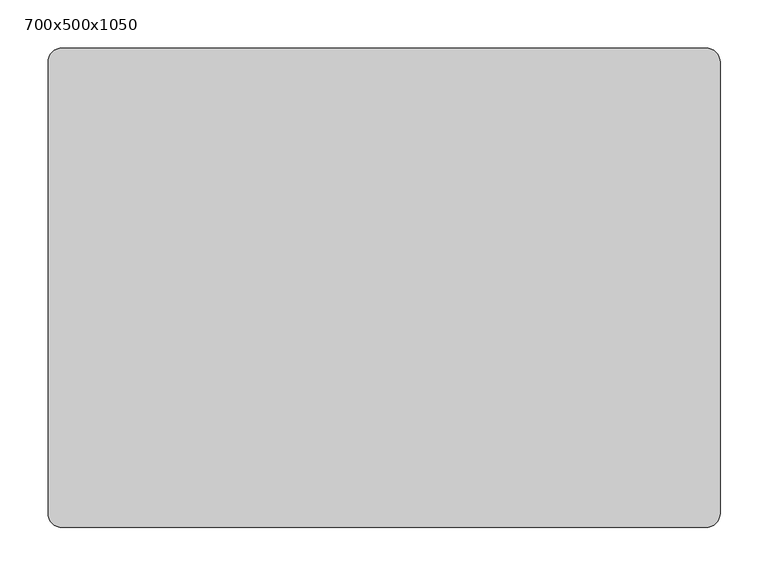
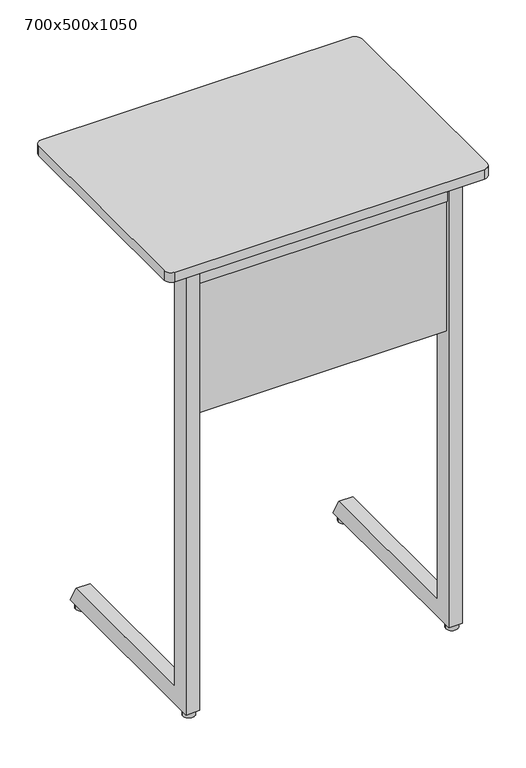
"""IFC4 building model written with IfcOpenShell, lengths in millimetres: furniture geometry, Trivia Light : 700x500x1050."""

import ifcopenshell
import ifcopenshell.guid

model = None  # the IFC model being written
_history = None  # IfcOwnerHistory: only IFC2X3 demands one
_inside = {}  # id of a spatial element -> (the spatial element, [elements in it])
_under = {}  # id of a project, library or spatial element -> (it, [spatial elements below it])
_declared = {}  # id of a project -> (the project, [libraries it declares])
_typed = {}  # id of a type object -> (the type object, [elements of that type])
_made_of = {}  # id of a material, layer set ... -> (it, [elements and type objects made of it])


def new_model(schema):
    """Start an empty IFC model of exactly this schema.

    Asked for "IFC4X3", IfcOpenShell would pick the latest addendum, in which some entities
    have other attributes; the version numbers below select the first issue.
    IFC2X3 requires an IfcOwnerHistory on every rooted entity: one is made here for all.
    """
    global model, _history
    if schema == "IFC4X3":
        model = ifcopenshell.file(schema_version=(4, 3, 0, 0))
    else:
        model = ifcopenshell.file(schema=schema)
    _inside.clear()
    _under.clear()
    _declared.clear()
    _typed.clear()
    _made_of.clear()
    _history = None
    if model.schema == "IFC2X3":
        org = make("IfcOrganization", Name="unknown")
        user = make(
            "IfcPersonAndOrganization",
            ThePerson=make("IfcPerson", FamilyName="unknown"),
            TheOrganization=org,
        )
        app = make(
            "IfcApplication",
            ApplicationDeveloper=org,
            Version="unknown",
            ApplicationFullName="unknown",
            ApplicationIdentifier="unknown",
        )
        _history = make(
            "IfcOwnerHistory",
            OwningUser=user,
            OwningApplication=app,
            ChangeAction="ADDED",
            CreationDate=0,
        )
    return model


def make(cls, **values):
    """One entity of the class cls with the attributes given. An attribute that is None is left unset."""
    return model.create_entity(
        cls, **{name: value for name, value in values.items() if value is not None}
    )


def rooted(cls, **values):
    """An entity with a GlobalId (a new one), such as an element, a storey or a relation."""
    return make(cls, GlobalId=ifcopenshell.guid.new(), OwnerHistory=_history, **values)


def si_unit(unit_type, name, prefix=None):
    """IfcSIUnit, for example si_unit("LENGTHUNIT", "METRE", prefix="MILLI")."""
    return make("IfcSIUnit", UnitType=unit_type, Prefix=prefix, Name=name)


def assignment(units):
    """IfcUnitAssignment: the units of a project."""
    return None if units is None else make("IfcUnitAssignment", Units=units)


def point(xyz):
    """IfcCartesianPoint."""
    return None if xyz is None else make("IfcCartesianPoint", Coordinates=xyz)


def direction(xyz):
    """IfcDirection."""
    return None if xyz is None else make("IfcDirection", DirectionRatios=xyz)


def frame(location, z_axis=None, x_axis=None):
    """IfcAxis2Placement3D, a coordinate frame: its origin and axes. An axis left out is left unset."""
    return make(
        "IfcAxis2Placement3D",
        Location=point(location),
        Axis=direction(z_axis),
        RefDirection=direction(x_axis),
    )


def frame_2d(location, x_axis=None):
    """IfcAxis2Placement2D, a coordinate frame in the plane: its origin and x axis."""
    return make(
        "IfcAxis2Placement2D", Location=point(location), RefDirection=direction(x_axis)
    )


def origin():
    """The frame at (0, 0, 0) with its axes left unset."""
    return frame((0.0, 0.0, 0.0))


def origin_with_axes():
    """The frame at (0, 0, 0) with the z axis (0, 0, 1) and the x axis (1, 0, 0) written out."""
    return frame((0.0, 0.0, 0.0), z_axis=(0.0, 0.0, 1.0), x_axis=(1.0, 0.0, 0.0))


def place(relative_to, where):
    """IfcLocalPlacement: puts the frame where relative to a parent placement (None: the world)."""
    return make(
        "IfcLocalPlacement", PlacementRelTo=relative_to, RelativePlacement=where
    )


def context(
    kind, dimensions, precision=None, world=None, true_north=None, identifier=None
):
    """IfcGeometricRepresentationContext, for example the 3D "Model" context."""
    return make(
        "IfcGeometricRepresentationContext",
        ContextIdentifier=identifier,
        ContextType=kind,
        CoordinateSpaceDimension=dimensions,
        Precision=precision,
        WorldCoordinateSystem=world,
        TrueNorth=true_north,
    )


def project(units=None, contexts=None):
    """IfcProject with its units and contexts."""
    return rooted(
        "IfcProject",
        Name="project",
        RepresentationContexts=contexts,
        UnitsInContext=assignment(units),
    )


def spatial(cls, under=None, at=None, **own):
    """A site, building, storey or space (cls), placed at a placement, below another one or the project."""
    s = rooted(cls, ObjectPlacement=at, **own)
    if under is not None:
        _under.setdefault(under.id(), (under, []))[1].append(s)
    return s


def polyline(points):
    """IfcPolyline through the points."""
    return make("IfcPolyline", Points=[point(p) for p in points])


def circle_curve(where, radius):
    """IfcCircle in the frame where."""
    return make("IfcCircle", Position=where, Radius=radius)


def trimmed(basis, trim1, trim2, sense, master):
    """IfcTrimmedCurve: the piece of a basis curve between two trims."""
    return make(
        "IfcTrimmedCurve",
        BasisCurve=basis,
        Trim1=trim1,
        Trim2=trim2,
        SenseAgreement=sense,
        MasterRepresentation=master,
    )


def segment(curve, same_sense, transition):
    """IfcCompositeCurveSegment."""
    return make(
        "IfcCompositeCurveSegment",
        Transition=transition,
        SameSense=same_sense,
        ParentCurve=curve,
    )


def composite_curve(segments, self_intersect=None):
    """IfcCompositeCurve: segments joined end to end."""
    return make("IfcCompositeCurve", Segments=segments, SelfIntersect=self_intersect)


def outline(outer, holes=None, kind="AREA"):
    """IfcArbitraryClosedProfileDef: a profile drawn as a closed curve; with holes, ...WithVoids."""
    if holes is None:
        return make("IfcArbitraryClosedProfileDef", ProfileType=kind, OuterCurve=outer)
    return make(
        "IfcArbitraryProfileDefWithVoids",
        ProfileType=kind,
        OuterCurve=outer,
        InnerCurves=holes,
    )


def extrude(swept, where, along, depth):
    """IfcExtrudedAreaSolid: the profile swept, set in the frame where, extruded along a direction by depth."""
    return make(
        "IfcExtrudedAreaSolid",
        SweptArea=swept,
        Position=where,
        ExtrudedDirection=direction(along),
        Depth=depth,
    )


def shape(context_of_items, identifier, shape_type, items):
    """IfcShapeRepresentation: the items that make up one representation, for example the "Body"."""
    return make(
        "IfcShapeRepresentation",
        ContextOfItems=context_of_items,
        RepresentationIdentifier=identifier,
        RepresentationType=shape_type,
        Items=items,
    )


def source(mapping_origin, context_of_items, identifier, shape_type, items):
    """IfcRepresentationMap: a shape defined once, which mapped items show again and again."""
    return make(
        "IfcRepresentationMap",
        MappingOrigin=mapping_origin,
        MappedRepresentation=shape(context_of_items, identifier, shape_type, items),
    )


def transform(
    local_origin,
    x_axis=None,
    y_axis=None,
    z_axis=None,
    scale=None,
    scale2=None,
    scale3=None,
    uniform=True,
):
    """IfcCartesianTransformationOperator3D, or its non-uniform kind. x_axis, y_axis, z_axis: its Axis1, 2, 3."""
    if uniform:
        return make(
            "IfcCartesianTransformationOperator3D",
            Axis1=direction(x_axis),
            Axis2=direction(y_axis),
            LocalOrigin=point(local_origin),
            Scale=scale,
            Axis3=direction(z_axis),
        )
    return make(
        "IfcCartesianTransformationOperator3DnonUniform",
        Axis1=direction(x_axis),
        Axis2=direction(y_axis),
        LocalOrigin=point(local_origin),
        Scale=scale,
        Axis3=direction(z_axis),
        Scale2=scale2,
        Scale3=scale3,
    )


def mapped(mapping_source, mapping_target):
    """IfcMappedItem: shows the shape of a source again, moved by a transform."""
    return make(
        "IfcMappedItem", MappingSource=mapping_source, MappingTarget=mapping_target
    )


def made_of(thing, what):
    """Note that an element or type object is made of a material, layer set ...; save() writes the relation."""
    if what is not None:
        _made_of.setdefault(what.id(), (what, []))[1].append(thing)
    return thing


def element(
    cls,
    number,
    at=None,
    inside=None,
    cuts=None,
    type_object=None,
    material=None,
    context=None,
    identifier="Body",
    shape_type=None,
    held_by="IfcProductDefinitionShape",
    body=None,
    shapes=None,
    **own,
):
    """One element of the class cls, such as IfcWall. Its Tag is "e" and its number.

    at: its placement. inside: the storey or other place that contains it. cuts: it is an
    opening in that element (IfcRelVoidsElement). A single representation is given by context,
    identifier, shape_type and body (its items); several are given by shapes. held_by: the class
    of the entity that holds the representations. save() writes the other relations.
    """
    e = rooted(cls, Tag="e%d" % number, ObjectPlacement=at, **own)
    if body is not None:
        shapes = [shape(context, identifier, shape_type, body)]
    if shapes is not None:
        e.Representation = make(held_by, Representations=shapes)
    if inside is not None:
        _inside.setdefault(inside.id(), (inside, []))[1].append(e)
    if cuts is not None:
        rooted(
            "IfcRelVoidsElement", RelatingBuildingElement=cuts, RelatedOpeningElement=e
        )
    if type_object is not None:
        _typed.setdefault(type_object.id(), (type_object, []))[1].append(e)
    return made_of(e, material)


def aggregate(whole, parts):
    """IfcRelAggregates: a whole, such as a stair, and the parts it consists of."""
    return rooted("IfcRelAggregates", RelatingObject=whole, RelatedObjects=parts)


def save(model, path):
    """Write the relations noted so far, then the file.

    IfcRelAggregates (storeys below a building ...), IfcRelContainedInSpatialStructure (elements
    in a storey), IfcRelDefinesByType, IfcRelAssociatesMaterial and IfcRelDeclares: one each for
    every whole, place, type object, material and project.
    """
    for whole, parts in _under.values():
        aggregate(whole, parts)
    for where, things in _inside.values():
        rooted(
            "IfcRelContainedInSpatialStructure",
            RelatedElements=things,
            RelatingStructure=where,
        )
    for kind, things in _typed.values():
        rooted("IfcRelDefinesByType", RelatedObjects=things, RelatingType=kind)
    for what, things in _made_of.values():
        rooted("IfcRelAssociatesMaterial", RelatedObjects=things, RelatingMaterial=what)
    for by, libraries in _declared.values():
        rooted("IfcRelDeclares", RelatingContext=by, RelatedDefinitions=libraries)
    model.write(path)


def furniture_700x500x1050_0ab8f7d2(model_context):
    return source(origin(), model_context, "Body", "SweptSolid", [
        extrude(outline(polyline([(434.5100173, 1028.0), (419.9996059, 996.4981092), (54.0, 996.4977978), (54.0, 1028.0), (434.5100173, 1028.0)])), frame((-214.7535601, 0.0, 0.0), z_axis=(1.0, 0.0, 0.0), x_axis=(0.0, 1.0, 0.0)), (0.0, 0.0, 1.0), 30.0),
        extrude(outline(polyline([(1023.7997437, -217.7502136), (1000.730957, -217.7502136), (1000.730957, -249.8065042), (1005.0394353, -261.6439509), (1002.2203574, -262.6700113), (997.730957, -250.3354852), (997.730957, -214.7502136), (1023.7997437, -214.7502136), (1023.7997437, -217.7502136)])), frame((0.0, 215.0, 0.0), z_axis=(0.0, 1.0, 0.0), x_axis=(0.0, 0.0, 1.0)), (0.0, 0.0, 1.0), 30.0),
        extrude(outline(polyline([(1023.7997437, 217.7535601), (1023.7997437, 214.7535601), (997.730957, 214.7535601), (997.730957, 250.3388316), (1002.2203574, 262.6733577), (1005.0394353, 261.6472973), (1000.730957, 249.8098507), (1000.730957, 217.7535601), (1023.7997437, 217.7535601)])), frame((0.0, 215.0, 0.0), z_axis=(0.0, 1.0, 0.0), x_axis=(0.0, 0.0, 1.0)), (0.0, 0.0, 1.0), 30.0),
        extrude(outline(composite_curve([segment(trimmed(circle_curve(frame_2d((-285.0, 35.0)), 13.0), [point((-298.0, 35.0))], [point((-272.0, 35.0))], False, "CARTESIAN"), True, "CONTINUOUS"), segment(trimmed(circle_curve(frame_2d((-285.0, 35.0)), 13.0), [point((-272.0, 35.0))], [point((-298.0, 35.0))], False, "CARTESIAN"), True, "CONTINUOUS")], self_intersect=False)), origin_with_axes(), (0.0, 0.0, 1.0), 13.0905762),
        extrude(outline(composite_curve([segment(trimmed(circle_curve(frame_2d((285.0, 35.0)), 13.0), [point((272.0, 35.0))], [point((298.0, 35.0))], False, "CARTESIAN"), True, "CONTINUOUS"), segment(trimmed(circle_curve(frame_2d((285.0, 35.0)), 13.0), [point((298.0, 35.0))], [point((272.0, 35.0))], False, "CARTESIAN"), True, "CONTINUOUS")], self_intersect=False)), origin_with_axes(), (0.0, 0.0, 1.0), 13.0905762),
        extrude(outline(composite_curve([segment(trimmed(circle_curve(frame_2d((285.0, 437.5)), 13.0), [point((272.0, 437.5))], [point((298.0, 437.5))], False, "CARTESIAN"), True, "CONTINUOUS"), segment(trimmed(circle_curve(frame_2d((285.0, 437.5)), 13.0), [point((298.0, 437.5))], [point((272.0, 437.5))], False, "CARTESIAN"), True, "CONTINUOUS")], self_intersect=False)), origin_with_axes(), (0.0, 0.0, 1.0), 13.0905762),
        extrude(outline(composite_curve([segment(trimmed(circle_curve(frame_2d((-285.0, 437.5)), 13.0), [point((-298.0, 437.5))], [point((-272.0, 437.5))], False, "CARTESIAN"), True, "CONTINUOUS"), segment(trimmed(circle_curve(frame_2d((-285.0, 437.5)), 13.0), [point((-272.0, 437.5))], [point((-298.0, 437.5))], False, "CARTESIAN"), True, "CONTINUOUS")], self_intersect=False)), origin_with_axes(), (0.0, 0.0, 1.0), 13.0905762),
        extrude(outline(polyline([(434.5100173, 1028.0), (419.9996059, 996.4981092), (54.0, 996.4977978), (54.0, 1028.0), (434.5100173, 1028.0)])), frame((184.7535601, 0.0, 0.0), z_axis=(1.0, 0.0, 0.0), x_axis=(0.0, 1.0, 0.0)), (0.0, 0.0, 1.0), 30.0),
        extrude(outline(composite_curve([segment(trimmed(circle_curve(frame_2d((335.0, 485.0)), 15.0), [point((335.0, 500.0))], [point((350.0, 485.0))], False, "CARTESIAN"), True, "CONTINUOUS"), segment(polyline([(350.0, 485.0), (350.0, 15.0)]), True, "CONTINUOUS"), segment(trimmed(circle_curve(frame_2d((335.0, 15.0)), 15.0), [point((350.0, 15.0))], [point((335.0, 0.0))], False, "CARTESIAN"), True, "CONTINUOUS"), segment(polyline([(335.0, 0.0), (-335.0, 0.0)]), True, "CONTINUOUS"), segment(trimmed(circle_curve(frame_2d((-335.0, 15.0)), 15.0), [point((-335.0, 0.0))], [point((-350.0, 15.0))], False, "CARTESIAN"), True, "CONTINUOUS"), segment(polyline([(-350.0, 15.0), (-350.0, 485.0)]), True, "CONTINUOUS"), segment(trimmed(circle_curve(frame_2d((-335.0, 485.0)), 15.0), [point((-350.0, 485.0))], [point((-335.0, 500.0))], False, "CARTESIAN"), True, "CONTINUOUS"), segment(polyline([(-335.0, 500.0), (335.0, 500.0)]), True, "CONTINUOUS")], self_intersect=False)), frame((0.0, 0.0, 1028.0), z_axis=(0.0, 0.0, 1.0), x_axis=(1.0, 0.0, 0.0)), (0.0, 0.0, 1.0), 22.0),
        extrude(outline(polyline([(269.7534307, 54.0), (269.7534307, 24.0), (-269.7534307, 24.0), (-269.7534307, 54.0), (269.7534307, 54.0)])), frame((0.0, 0.0, 986.0), z_axis=(0.0, 0.0, 1.0), x_axis=(1.0, 0.0, 0.0)), (0.0, 0.0, 1.0), 42.0),
        extrude(outline(polyline([(62.0, 51.5905762), (432.1448423, 51.5905762), (454.8944033, 11.5905762), (20.0, 11.5905762), (20.0, 1028.0), (62.0, 1028.0), (62.0, 51.5905762)])), frame((-299.7535601, 0.0, 0.0), z_axis=(1.0, 0.0, 0.0), x_axis=(0.0, 1.0, 0.0)), (0.0, 0.0, 1.0), 30.0001294),
        extrude(outline(polyline([(62.0, 51.5905762), (432.1448423, 51.5905762), (454.8944033, 11.5905762), (20.0, 11.5905762), (20.0, 1028.0), (62.0, 1028.0), (62.0, 51.5905762)])), frame((269.7534307, 0.0, 0.0), z_axis=(1.0, 0.0, 0.0), x_axis=(0.0, 1.0, 0.0)), (0.0, 0.0, 1.0), 30.0001294),
        extrude(outline(polyline([(269.7534307, 45.9187166), (269.7534307, 27.9321552), (-269.7534307, 27.9321552), (-269.7534307, 45.9187166), (269.7534307, 45.9187166)])), frame((0.0, 0.0, 686.5950628), z_axis=(0.0, 0.0, 1.0), x_axis=(1.0, 0.0, 0.0)), (0.0, 0.0, 1.0), 299.4049372),
    ])


if __name__ == "__main__":
    model = new_model("IFC4")
    model_context = context("Model", 3, world=origin())
    ifc_project = project(units=[si_unit("LENGTHUNIT", "METRE", prefix="MILLI")], contexts=[model_context])
    site = spatial("IfcSite", under=ifc_project)
    building = spatial("IfcBuilding", under=site)
    placement = place(None, origin())
    furniture_700x500x1050_shape = furniture_700x500x1050_0ab8f7d2(model_context)
    element("IfcFurniture", 1, ObjectType="Trivia Light : 700x500x1050", at=placement, inside=building, context=model_context, shape_type="MappedRepresentation", body=[
        mapped(furniture_700x500x1050_shape, transform((0.0, 0.0, 0.0), x_axis=(1.0, 0.0, 0.0), y_axis=(0.0, 1.0, 0.0), z_axis=(0.0, 0.0, 1.0))),
    ])
    save(model, "model.ifc")
